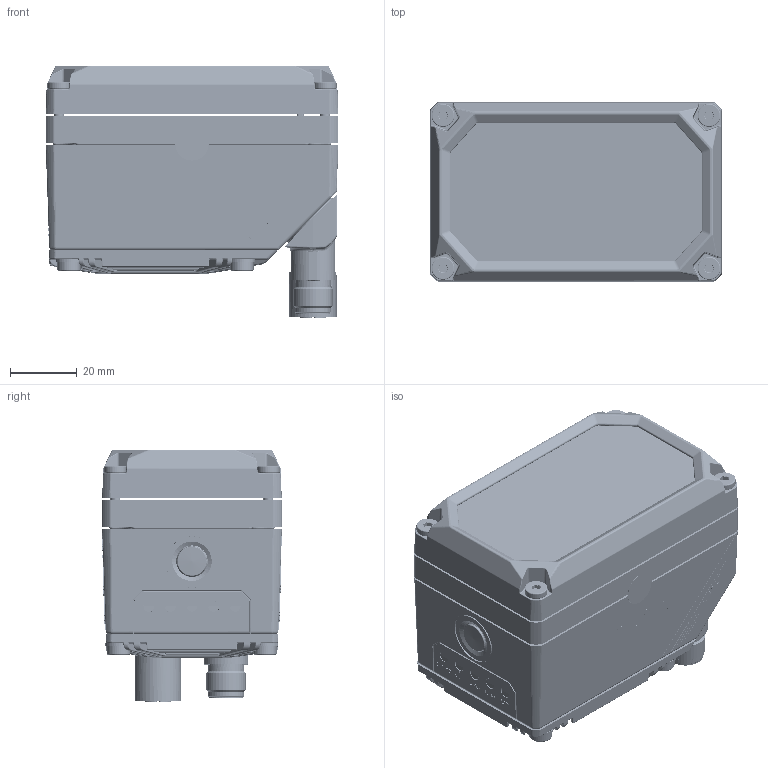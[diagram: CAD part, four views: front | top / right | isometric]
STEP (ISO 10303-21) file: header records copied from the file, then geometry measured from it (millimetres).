
FILE_DESCRIPTION(/* description */ (''),/* implementation_level */ '2;1');
FILE_NAME(/* name */ 'P2x-90°-DSD-1049.stp',/* time_stamp */ '2021-02-15T10:28:41+01:00',/* author */ (''),/* organization */ (''),/* preprocessor_version */ 'ST-DEVELOPER v16.7',/* originating_system */ 'SIEMENS PLM Software NX 12.0',/* authorisation */ '');
FILE_SCHEMA (('AUTOMOTIVE_DESIGN { 1 0 10303 214 3 1 1 1 }'));
Products named in the file (1): MGia2A940324k8w8
Bounding box: 88 x 54.22 x 75.9 mm (x, y, z)
Volume: 90604 mm3; surface area: 90819.2 mm2
Topology: 198 solids, 198 shells, 5959 faces, 14049 edges, 8516 vertices
Faces by surface type: plane 2320, cylinder 1629, bspline 684, cone 541, torus 327, extrusion 325, sphere 133
Full cylindrical faces by diameter (mm): 0.6 x34, 1.25 x4, 1.6 x6, 1.75 x3, 1.8 x2, 2.5 x20, 2.7 x3, 2.9 x7, 3 x4, 3.2 x12, 3.3 x9, 3.37 x4, 3.5 x5, 3.85 x2, 3.95 x4, 4 x1, 4.3 x4, 4.4 x4, 4.5 x4, 4.9 x1, 5 x2, 5.3 x1, 5.4 x8, 6.2 x4, 6.8 x1, 6.9 x4, 7 x4, 8 x4, 8.75 x1, 8.8 x1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
Entity records: 203399 total; most frequent: CARTESIAN_POINT 65917, ORIENTED_EDGE 26676, DIRECTION 26130, EDGE_CURVE 13338, AXIS2_PLACEMENT_3D 10033, VERTEX_POINT 8391, EDGE_LOOP 6721, VECTOR 6064
